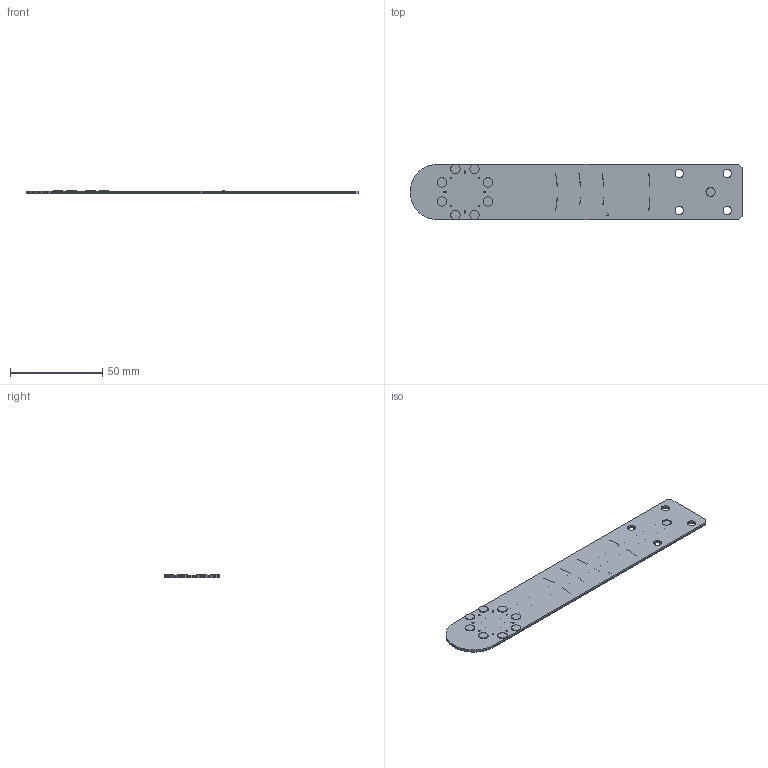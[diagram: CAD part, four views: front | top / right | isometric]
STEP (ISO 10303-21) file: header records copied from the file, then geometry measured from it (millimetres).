
FILE_DESCRIPTION(('FreeCAD Model'),'2;1');
FILE_NAME('Open CASCADE Shape Model','2025-08-29T09:39:28',(''),(''), 'Open CASCADE STEP processor 7.6','FreeCAD','Unknown');
FILE_SCHEMA(('AUTOMOTIVE_DESIGN { 1 0 10303 214 1 1 1 1 }'));
Length unit declared in the file: millimetre
Products named in the file (17): Unnamed; NA2408015____________; 20250828; NA2408016; NA2408017; NA2408018; ______2; Path019; Path010; Path011; Path012; Path013; Path014; Path015; Path016; Path017; Path018
Assembly tree (18 placements, depth 4):
  Unnamed
    NA2408015____________
      20250828
        NA2408016
        NA2408017
        NA2408018
      ______2
        Path019
        Path010
        Path011
        Path012
        Path013
        Path014
        Path015
        Path016
        Path017
        Path018
    20250828
      NA2408016
      NA2408017
      NA2408018
    ______2
      Path019
      Path010
      Path011
      Path012
      Path013
      Path014
      Path015
      Path016
      Path017
      Path018
Bounding box: 179.75 x 30 x 2 mm (x, y, z)
Surface area: 44314 mm2
Topology: 20 solids, 22 shells, 268 faces, 1218 edges, 3588 vertices
Faces by surface type: cylinder 150, plane 116, bspline 2
Entity records: 15021 total; most frequent: CARTESIAN_POINT 4607, DIRECTION 1550, LINE 657, VECTOR 657, ORIENTED_EDGE 622, PCURVE 622, DEFINITIONAL_REPRESENTATION 622, AXIS2_PLACEMENT_3D 398
